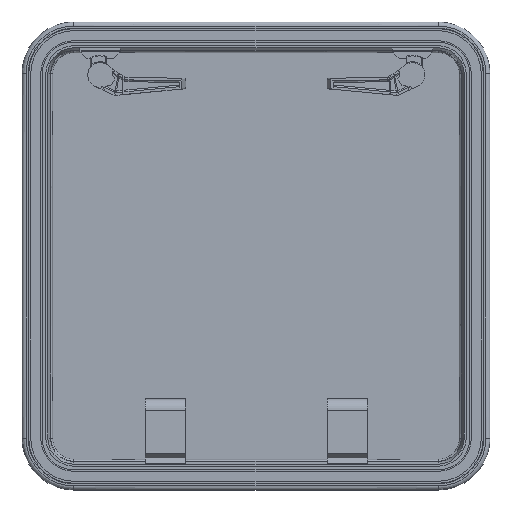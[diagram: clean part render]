
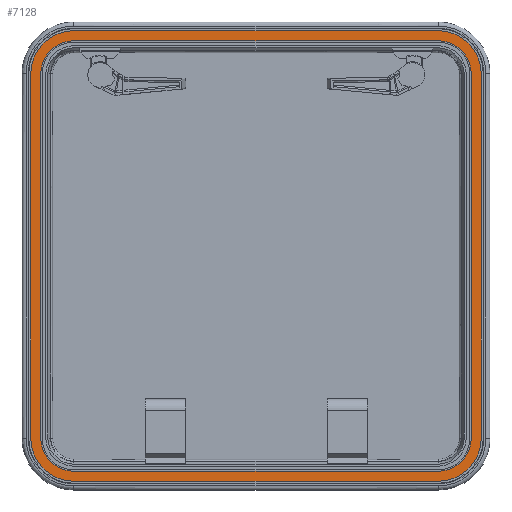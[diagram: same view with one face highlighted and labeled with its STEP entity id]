
A CAD part, top view. The second image highlights one B-rep face of the part: STEP entity #7128.
In plain terms, the highlighted planar face has unit normal (0, 0, 1) as drawn and (0, 0, -1) by its records, which use the part's own axes.
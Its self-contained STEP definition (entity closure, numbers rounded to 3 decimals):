
#1537=DIRECTION('',(1.,0.,0.));
#1538=VECTOR('',#1537,543.);
#1539=CARTESIAN_POINT('',(77.5,28.,-1.5));
#1540=LINE('',#1539,#1538);
#1545=CARTESIAN_POINT('',(77.5,77.5,-1.5));
#1546=DIRECTION('',(0.,0.,1.));
#1547=DIRECTION('',(-1.,0.,0.));
#1548=AXIS2_PLACEMENT_3D('',#1545,#1546,#1547);
#1558=DIRECTION('',(0.,-1.,0.));
#1559=VECTOR('',#1558,543.);
#1560=CARTESIAN_POINT('',(28.,620.5,-1.5));
#1561=LINE('',#1560,#1559);
#1566=CARTESIAN_POINT('',(77.5,620.5,-1.5));
#1567=DIRECTION('',(0.,0.,1.));
#1568=DIRECTION('',(0.,1.,0.));
#1569=AXIS2_PLACEMENT_3D('',#1566,#1567,#1568);
#1575=DIRECTION('',(-1.,0.,0.));
#1576=VECTOR('',#1575,543.);
#1577=CARTESIAN_POINT('',(620.5,670.,-1.5));
#1578=LINE('',#1577,#1576);
#1583=CARTESIAN_POINT('',(620.5,620.5,-1.5));
#1584=DIRECTION('',(0.,0.,1.));
#1585=DIRECTION('',(1.,0.,0.));
#1586=AXIS2_PLACEMENT_3D('',#1583,#1584,#1585);
#1592=DIRECTION('',(0.,1.,0.));
#1593=VECTOR('',#1592,543.);
#1594=CARTESIAN_POINT('',(670.,77.5,-1.5));
#1595=LINE('',#1594,#1593);
#1600=CARTESIAN_POINT('',(620.5,77.5,-1.5));
#1601=DIRECTION('',(0.,0.,1.));
#1602=DIRECTION('',(0.,-1.,0.));
#1603=AXIS2_PLACEMENT_3D('',#1600,#1601,#1602);
#1605=DIRECTION('',(1.,0.,0.));
#1606=VECTOR('',#1605,543.);
#1607=CARTESIAN_POINT('',(77.5,13.,-1.5));
#1608=LINE('',#1607,#1606);
#1609=CARTESIAN_POINT('',(620.5,77.5,-1.5));
#1610=DIRECTION('',(0.,0.,1.));
#1611=DIRECTION('',(0.,-1.,0.));
#1612=AXIS2_PLACEMENT_3D('',#1609,#1610,#1611);
#1614=DIRECTION('',(0.,1.,0.));
#1615=VECTOR('',#1614,543.);
#1616=CARTESIAN_POINT('',(685.,77.5,-1.5));
#1617=LINE('',#1616,#1615);
#1618=CARTESIAN_POINT('',(620.5,620.5,-1.5));
#1619=DIRECTION('',(0.,0.,1.));
#1620=DIRECTION('',(1.,0.,0.));
#1621=AXIS2_PLACEMENT_3D('',#1618,#1619,#1620);
#1623=DIRECTION('',(-1.,0.,0.));
#1624=VECTOR('',#1623,543.);
#1625=CARTESIAN_POINT('',(620.5,685.,-1.5));
#1626=LINE('',#1625,#1624);
#1627=CARTESIAN_POINT('',(77.5,620.5,-1.5));
#1628=DIRECTION('',(0.,0.,1.));
#1629=DIRECTION('',(0.,1.,0.));
#1630=AXIS2_PLACEMENT_3D('',#1627,#1628,#1629);
#1632=DIRECTION('',(0.,-1.,0.));
#1633=VECTOR('',#1632,543.);
#1634=CARTESIAN_POINT('',(13.,620.5,-1.5));
#1635=LINE('',#1634,#1633);
#1636=CARTESIAN_POINT('',(77.5,77.5,-1.5));
#1637=DIRECTION('',(0.,0.,1.));
#1638=DIRECTION('',(-1.,0.,0.));
#1639=AXIS2_PLACEMENT_3D('',#1636,#1637,#1638);
#2021=CARTESIAN_POINT('',(77.5,13.,-1.5));
#2023=VERTEX_POINT('',#2021);
#2024=CARTESIAN_POINT('',(77.5,28.,-1.5));
#2026=VERTEX_POINT('',#2024);
#2062=CARTESIAN_POINT('',(620.5,13.,-1.5));
#2064=VERTEX_POINT('',#2062);
#2065=CARTESIAN_POINT('',(620.5,28.,-1.5));
#2067=VERTEX_POINT('',#2065);
#2103=CARTESIAN_POINT('',(685.,77.5,-1.5));
#2105=VERTEX_POINT('',#2103);
#2106=CARTESIAN_POINT('',(670.,77.5,-1.5));
#2108=VERTEX_POINT('',#2106);
#2144=CARTESIAN_POINT('',(685.,620.5,-1.5));
#2146=VERTEX_POINT('',#2144);
#2147=CARTESIAN_POINT('',(670.,620.5,-1.5));
#2149=VERTEX_POINT('',#2147);
#2185=CARTESIAN_POINT('',(620.5,685.,-1.5));
#2187=VERTEX_POINT('',#2185);
#2188=CARTESIAN_POINT('',(620.5,670.,-1.5));
#2190=VERTEX_POINT('',#2188);
#2226=CARTESIAN_POINT('',(77.5,685.,-1.5));
#2228=VERTEX_POINT('',#2226);
#2229=CARTESIAN_POINT('',(77.5,670.,-1.5));
#2231=VERTEX_POINT('',#2229);
#2267=CARTESIAN_POINT('',(13.,620.5,-1.5));
#2269=VERTEX_POINT('',#2267);
#2270=CARTESIAN_POINT('',(28.,620.5,-1.5));
#2272=VERTEX_POINT('',#2270);
#2308=CARTESIAN_POINT('',(13.,77.5,-1.5));
#2310=VERTEX_POINT('',#2308);
#2311=CARTESIAN_POINT('',(28.,77.5,-1.5));
#2313=VERTEX_POINT('',#2311);
#7095=CARTESIAN_POINT('',(349.,20.5,-1.5));
#7096=DIRECTION('',(0.,0.,1.));
#7097=DIRECTION('',(0.,1.,0.));
#7098=AXIS2_PLACEMENT_3D('',#7095,#7096,#7097);
#7099=PLANE('',#7098);
#7101=ORIENTED_EDGE('',*,*,#7100,.T.);
#7103=ORIENTED_EDGE('',*,*,#7102,.T.);
#7105=ORIENTED_EDGE('',*,*,#7104,.T.);
#7107=ORIENTED_EDGE('',*,*,#7106,.T.);
#7109=ORIENTED_EDGE('',*,*,#7108,.T.);
#7111=ORIENTED_EDGE('',*,*,#7110,.T.);
#7113=ORIENTED_EDGE('',*,*,#7112,.T.);
#7115=ORIENTED_EDGE('',*,*,#7114,.T.);
#7116=EDGE_LOOP('',(#7101,#7103,#7105,#7107,#7109,#7111,#7113,#7115));
#7117=FACE_OUTER_BOUND('',#7116,.F.);
#7118=ORIENTED_EDGE('',*,*,#7005,.F.);
#7119=ORIENTED_EDGE('',*,*,#7019,.F.);
#7120=ORIENTED_EDGE('',*,*,#7033,.F.);
#7121=ORIENTED_EDGE('',*,*,#7047,.F.);
#7122=ORIENTED_EDGE('',*,*,#7061,.F.);
#7123=ORIENTED_EDGE('',*,*,#7075,.F.);
#7124=ORIENTED_EDGE('',*,*,#7088,.F.);
#7125=ORIENTED_EDGE('',*,*,#6990,.F.);
#7126=EDGE_LOOP('',(#7118,#7119,#7120,#7121,#7122,#7123,#7124,#7125));
#7127=FACE_BOUND('',#7126,.F.);
#7128=ADVANCED_FACE('',(#7117,#7127),#7099,.F.);
#1549=CIRCLE('',#1548,49.5);
#1570=CIRCLE('',#1569,49.5);
#1587=CIRCLE('',#1586,49.5);
#1604=CIRCLE('',#1603,49.5);
#1613=CIRCLE('',#1612,64.5);
#1622=CIRCLE('',#1621,64.5);
#1631=CIRCLE('',#1630,64.5);
#1640=CIRCLE('',#1639,64.5);
#6990=EDGE_CURVE('',#2026,#2067,#1540,.T.);
#7005=EDGE_CURVE('',#2313,#2026,#1549,.T.);
#7019=EDGE_CURVE('',#2272,#2313,#1561,.T.);
#7033=EDGE_CURVE('',#2231,#2272,#1570,.T.);
#7047=EDGE_CURVE('',#2190,#2231,#1578,.T.);
#7061=EDGE_CURVE('',#2149,#2190,#1587,.T.);
#7075=EDGE_CURVE('',#2108,#2149,#1595,.T.);
#7088=EDGE_CURVE('',#2067,#2108,#1604,.T.);
#7100=EDGE_CURVE('',#2023,#2064,#1608,.T.);
#7102=EDGE_CURVE('',#2064,#2105,#1613,.T.);
#7104=EDGE_CURVE('',#2105,#2146,#1617,.T.);
#7106=EDGE_CURVE('',#2146,#2187,#1622,.T.);
#7108=EDGE_CURVE('',#2187,#2228,#1626,.T.);
#7110=EDGE_CURVE('',#2228,#2269,#1631,.T.);
#7112=EDGE_CURVE('',#2269,#2310,#1635,.T.);
#7114=EDGE_CURVE('',#2310,#2023,#1640,.T.);
